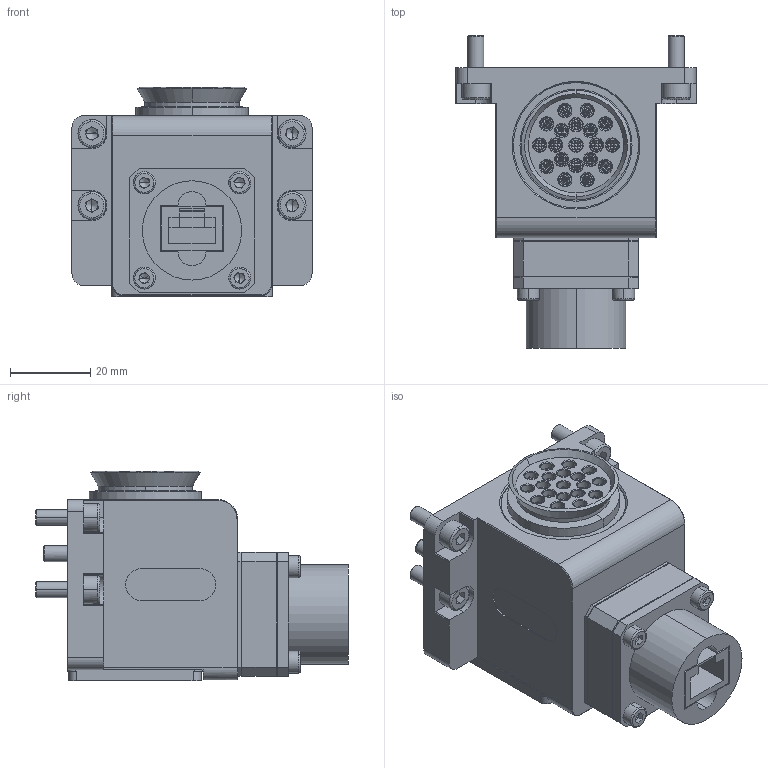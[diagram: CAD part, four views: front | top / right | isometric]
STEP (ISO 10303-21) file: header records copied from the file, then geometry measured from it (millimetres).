
FILE_DESCRIPTION (( 'STEP AP203' ), '1' );
FILE_NAME ('QCSM-RJ45-06R(褫俋楷).STEP', '2024-01-02T01:56:11', ( '' ), ( '' ), 'SwSTEP 2.0', 'SolidWorks 2022', '' );
FILE_SCHEMA (( 'CONFIG_CONTROL_DESIGN' ));
Length unit declared in the file: millimetre
Products named in the file (1): QCSM-RJ45-06R(可外发)
Bounding box: 60 x 78.1 x 52.4 mm (x, y, z)
Volume: 103748 mm3; surface area: 21882.1 mm2
Topology: 1 solids, 1 shells, 1397 faces, 3181 edges, 1845 vertices
Faces by surface type: plane 1003, cylinder 207, cone 165, bspline 22
Entity records: 38282 total; most frequent: CARTESIAN_POINT 8706, ORIENTED_EDGE 6314, DIRECTION 5947, EDGE_CURVE 3157, AXIS2_PLACEMENT_3D 2022, VECTOR 1903, LINE 1903, VERTEX_POINT 1845
